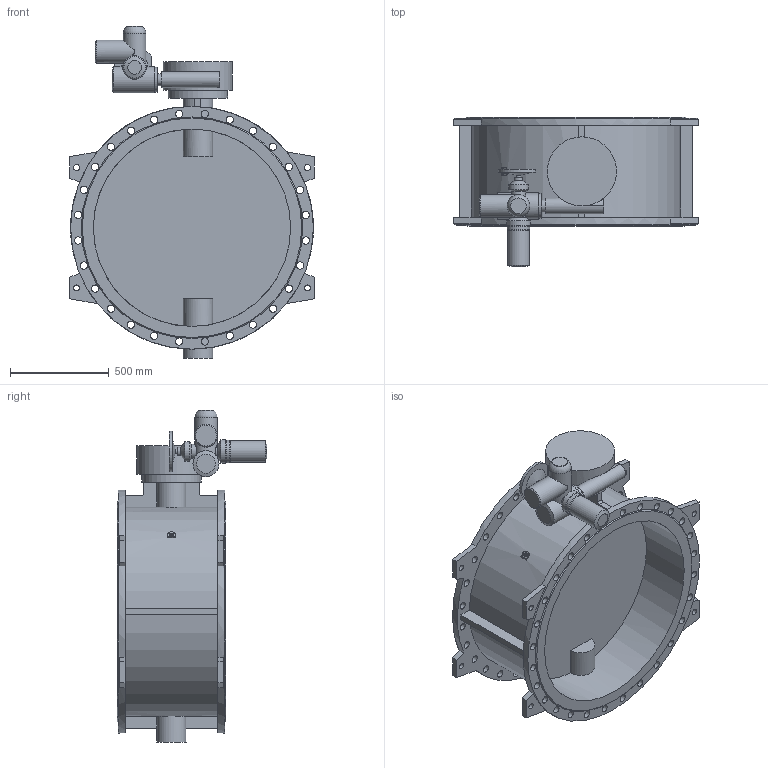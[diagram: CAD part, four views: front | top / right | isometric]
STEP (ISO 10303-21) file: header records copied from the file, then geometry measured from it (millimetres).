
FILE_DESCRIPTION(('STEP AP203'), '1');
FILE_NAME('Çàòâîð 023F.Z DN1000 PN10 + ðåäóêòîð + ÌÒ903.À10', '', ('UNSPECIFIED'), ('UNSPECIFIED'), 'ASCON STEP Converter 1.6', 'ASCON Math Kernel', '');
FILE_SCHEMA(('CONFIG_CONTROL_DESIGN'));
Length unit declared in the file: millimetre
Bounding box: 1240 x 758 x 1682 mm (x, y, z)
Volume: 176896495.6 mm3; surface area: 7836196 mm2
Topology: 1 solids, 1 shells, 260 faces, 633 edges, 416 vertices
Faces by surface type: cylinder 131, plane 117, cone 11, torus 1
Full cylindrical faces by diameter (mm): 8.5 x4, 12 x4, 14 x8, 18 x8, 24 x1, 30 x8, 37 x56, 42 x1, 60 x1, 66 x1, 72 x1, 80 x2, 100 x1, 108 x1, 114 x1, 115 x1, 116 x1, 119 x1, 125 x1, 132 x1, 150 x1, 300 x1, 350 x1, 1000 x2, 1230 x2
Entity records: 11643 total; most frequent: CARTESIAN_POINT 3460, DIRECTION 1272, ORIENTED_EDGE 1014, EDGE_LOOP 554, AXIS2_PLACEMENT_3D 539, EDGE_CURVE 507, VERTEX_POINT 415, FACE_BOUND 320
